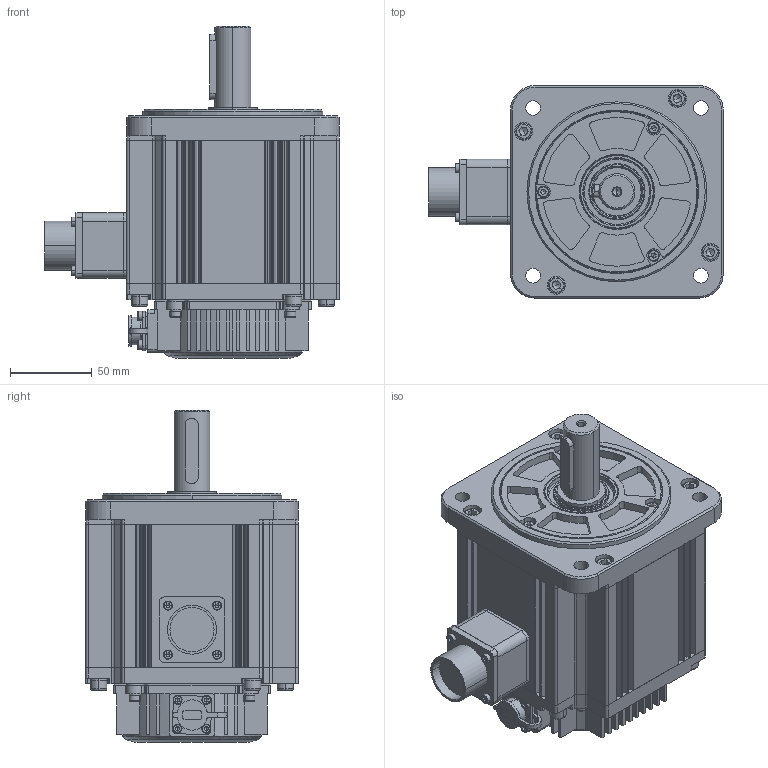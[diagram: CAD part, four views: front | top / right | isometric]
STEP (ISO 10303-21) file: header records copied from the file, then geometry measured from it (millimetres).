
FILE_DESCRIPTION (( 'STEP AP214' ), '1' );
FILE_NAME ('EMG-10(¶þ´ú).STEP', '2020-03-30T10:13:18', ( '' ), ( '' ), 'SwSTEP 2.0', 'SolidWorks 2018', '' );
FILE_SCHEMA (( 'AUTOMOTIVE_DESIGN' ));
Length unit declared in the file: millimetre
Products named in the file (64): hexagon socket head cap screws gb; hexagon socket head cap screws gb_GB_FASTENER_SCREWS_HSHCS M3X12-NHDA; hexagon socket head cap screws gb_GB_FASTENER_SCREWS_HSHCS M6X16-NHDA; wave single coil spring lock washers gb; wave single coil spring lock washers gb_GB_FASTENER_WASHER_WSLW 6; hexagon socket head cap screws gb_GB_FASTENER_SCREWS_HSHCS M4X12-NHDA; wave single coil spring lock washers gb_GB_FASTENER_WASHER_WSLW 4; 12; 11; 10; 5; 9; 8; 7; 6; 4; 3; 1; 2; EMG-10(媼測)
Assembly tree (46 placements, depth 2):
  hexagon socket head cap screws gb
  hexagon socket head cap screws gb
  hexagon socket head cap screws gb
  hexagon socket head cap screws gb
  wave single coil spring lock washers gb
Bounding box: 180.05 x 130 x 203 mm (x, y, z)
Volume: 1811775 mm3; surface area: 290625.1 mm2
Topology: 47 solids, 48 shells, 2091 faces, 5463 edges, 3512 vertices
Faces by surface type: plane 1023, cylinder 789, cone 182, torus 68, bspline 19, sphere 10
Entity records: 58884 total; most frequent: CARTESIAN_POINT 12919, ORIENTED_EDGE 8126, DIRECTION 8093, EDGE_CURVE 4063, AXIS2_PLACEMENT_3D 2884, VERTEX_POINT 2698, LINE 2325, VECTOR 2325
